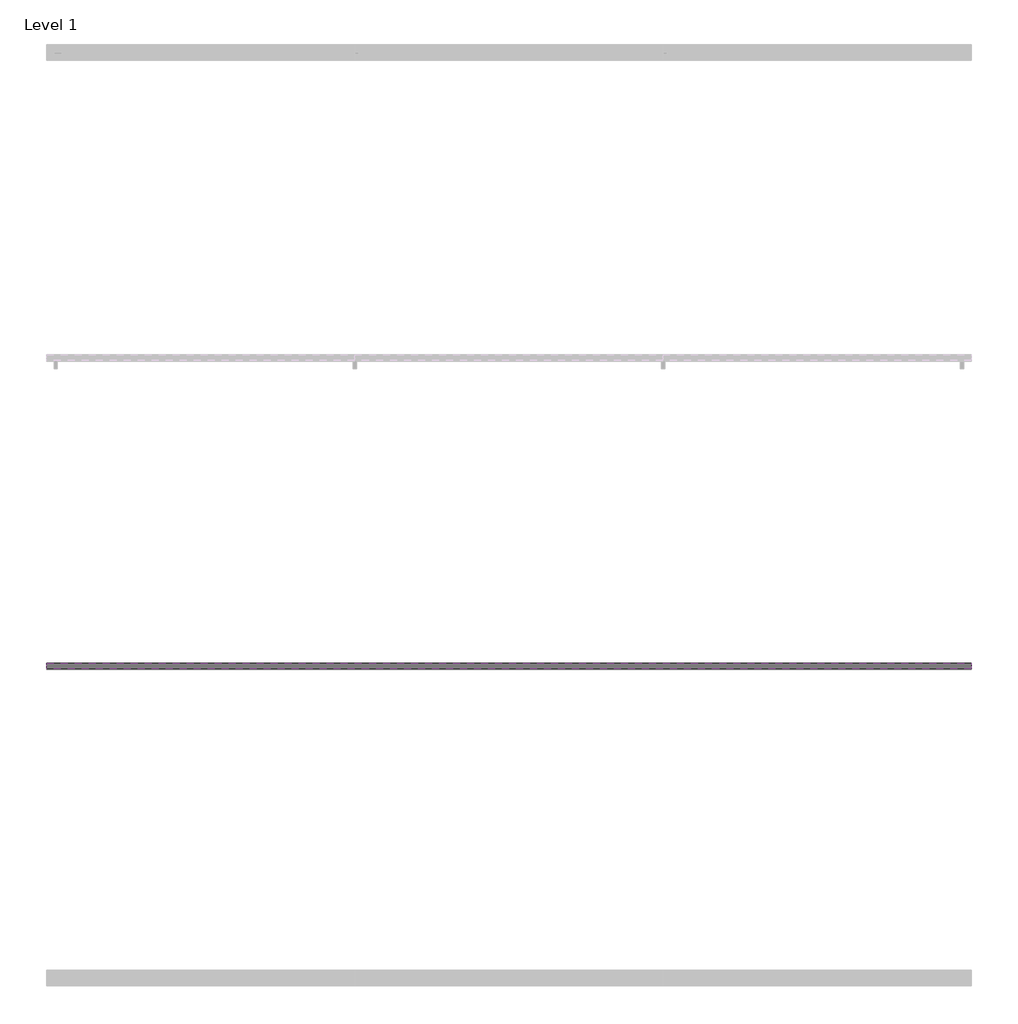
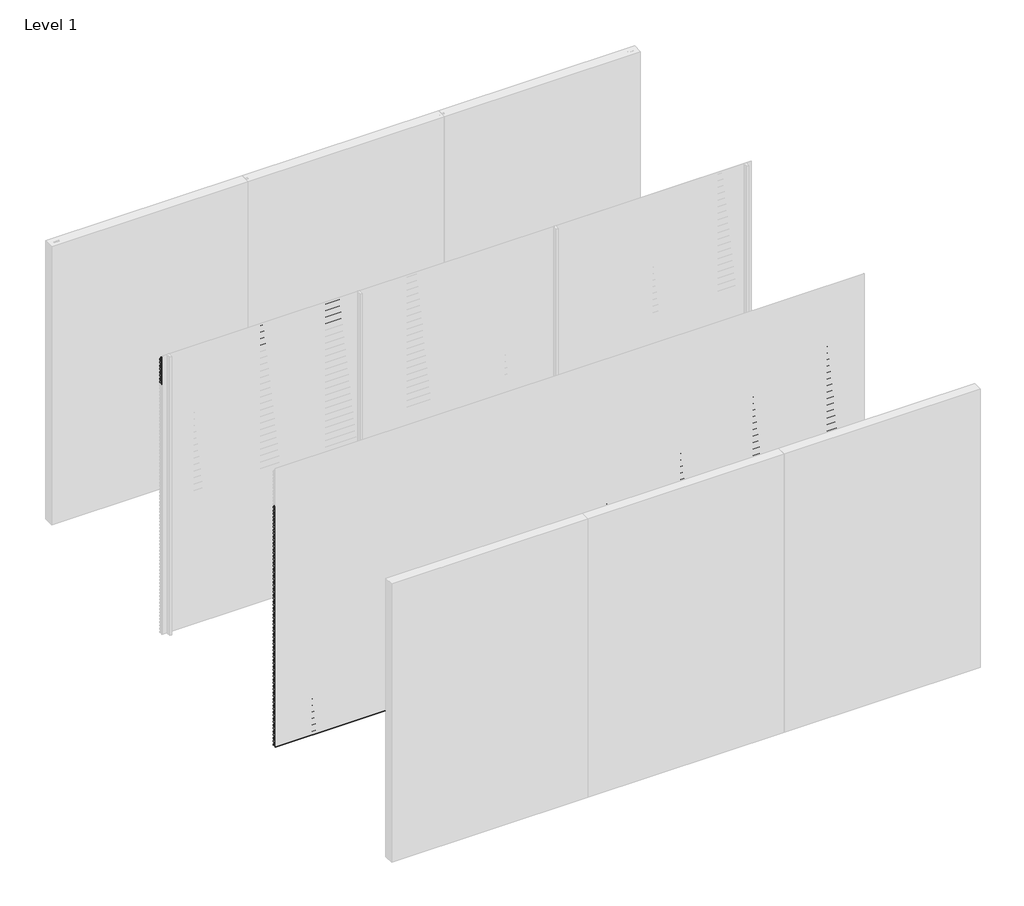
# One storey, part 10 of 17: 82 proxies.
"""IFC4 building model written with IfcOpenShell, lengths in millimetres."""

from ifc_helpers import new_model, si_unit, frame, origin, place, context, project, spatial, polyline, outline, extrude, element, save

model = new_model("IFC4")

# Units and contexts
model_context = context("Model", 3, world=origin())
ifc_project = project(units=[si_unit("LENGTHUNIT", "METRE", prefix="MILLI")], contexts=[model_context])

# Site, building, storey
site = spatial("IfcSite", under=ifc_project)
building = spatial("IfcBuilding", under=site)
storey = spatial("IfcBuildingStorey", under=building, Name="Level 1", Elevation=0.0)

# Proxies
placement = place(None, origin())
element("IfcBuildingElementProxy", 1, Name="Wall Sweeps", at=placement, inside=storey, context=model_context, shape_type="SweptSolid", body=[
    extrude(outline(polyline([(-5961.0, 2951.5), (-5961.0, 2936.5), (-5979.0, 2948.6411533), (-5997.0, 2936.5), (-5997.0, 2951.5), (-5980.0, 2962.9666448), (-5980.0, 2975.0), (-5978.0, 2975.0), (-5978.0, 2962.9666448), (-5961.0, 2951.5)])), frame((0.0, 0.0, 0.0), z_axis=(1.0, 0.0, 0.0), x_axis=(0.0, 1.0, 0.0)), (0.0, 0.0, 1.0), 2000.0),
])
element("IfcBuildingElementProxy", 2, Name="Wall Sweeps", at=placement, inside=storey, context=model_context, shape_type="SweptSolid", body=[
    extrude(outline(polyline([(-5961.0, 2916.5), (-5961.0, 2901.5), (-5979.0, 2913.6411533), (-5997.0, 2901.5), (-5997.0, 2916.5), (-5980.0, 2927.9666448), (-5980.0, 2940.0), (-5978.0, 2940.0), (-5978.0, 2927.9666448), (-5961.0, 2916.5)])), frame((0.0, 0.0, 0.0), z_axis=(1.0, 0.0, 0.0), x_axis=(0.0, 1.0, 0.0)), (0.0, 0.0, 1.0), 2000.0),
])
element("IfcBuildingElementProxy", 3, Name="Wall Sweeps", at=placement, inside=storey, context=model_context, shape_type="SweptSolid", body=[
    extrude(outline(polyline([(-5961.0, 2881.5), (-5961.0, 2866.5), (-5979.0, 2878.6411533), (-5997.0, 2866.5), (-5997.0, 2881.5), (-5980.0, 2892.9666448), (-5980.0, 2905.0), (-5978.0, 2905.0), (-5978.0, 2892.9666448), (-5961.0, 2881.5)])), frame((0.0, 0.0, 0.0), z_axis=(1.0, 0.0, 0.0), x_axis=(0.0, 1.0, 0.0)), (0.0, 0.0, 1.0), 2000.0),
])
element("IfcBuildingElementProxy", 4, Name="Wall Sweeps", at=placement, inside=storey, context=model_context, shape_type="SweptSolid", body=[
    extrude(outline(polyline([(-5961.0, 2846.5), (-5961.0, 2831.5), (-5979.0, 2843.6411533), (-5997.0, 2831.5), (-5997.0, 2846.5), (-5980.0, 2857.9666448), (-5980.0, 2870.0), (-5978.0, 2870.0), (-5978.0, 2857.9666448), (-5961.0, 2846.5)])), frame((0.0, 0.0, 0.0), z_axis=(1.0, 0.0, 0.0), x_axis=(0.0, 1.0, 0.0)), (0.0, 0.0, 1.0), 2000.0),
])
element("IfcBuildingElementProxy", 5, Name="Wall Sweeps", at=placement, inside=storey, context=model_context, shape_type="SweptSolid", body=[
    extrude(outline(polyline([(-5961.0, 2811.5), (-5961.0, 2796.5), (-5979.0, 2808.6411533), (-5997.0, 2796.5), (-5997.0, 2811.5), (-5980.0, 2822.9666448), (-5980.0, 2835.0), (-5978.0, 2835.0), (-5978.0, 2822.9666448), (-5961.0, 2811.5)])), frame((0.0, 0.0, 0.0), z_axis=(1.0, 0.0, 0.0), x_axis=(0.0, 1.0, 0.0)), (0.0, 0.0, 1.0), 2000.0),
])
element("IfcBuildingElementProxy", 6, Name="Wall Sweeps", at=placement, inside=storey, context=model_context, shape_type="SweptSolid", body=[
    extrude(outline(polyline([(-5961.0, 2776.5), (-5961.0, 2761.5), (-5979.0, 2773.6411533), (-5997.0, 2761.5), (-5997.0, 2776.5), (-5980.0, 2787.9666448), (-5980.0, 2800.0), (-5978.0, 2800.0), (-5978.0, 2787.9666448), (-5961.0, 2776.5)])), frame((0.0, 0.0, 0.0), z_axis=(1.0, 0.0, 0.0), x_axis=(0.0, 1.0, 0.0)), (0.0, 0.0, 1.0), 2000.0),
])
element("IfcBuildingElementProxy", 7, Name="Wall Sweeps", at=placement, inside=storey, context=model_context, shape_type="SweptSolid", body=[
    extrude(outline(polyline([(-5961.0, 2741.5), (-5961.0, 2726.5), (-5979.0, 2738.6411533), (-5997.0, 2726.5), (-5997.0, 2741.5), (-5980.0, 2752.9666448), (-5980.0, 2765.0), (-5978.0, 2765.0), (-5978.0, 2752.9666448), (-5961.0, 2741.5)])), frame((0.0, 0.0, 0.0), z_axis=(1.0, 0.0, 0.0), x_axis=(0.0, 1.0, 0.0)), (0.0, 0.0, 1.0), 2000.0),
])
element("IfcBuildingElementProxy", 8, Name="Wall Sweeps", at=placement, inside=storey, context=model_context, shape_type="SweptSolid", body=[
    extrude(outline(polyline([(-5961.0, 2706.5), (-5961.0, 2691.5), (-5979.0, 2703.6411533), (-5997.0, 2691.5), (-5997.0, 2706.5), (-5980.0, 2717.9666448), (-5980.0, 2730.0), (-5978.0, 2730.0), (-5978.0, 2717.9666448), (-5961.0, 2706.5)])), frame((0.0, 0.0, 0.0), z_axis=(1.0, 0.0, 0.0), x_axis=(0.0, 1.0, 0.0)), (0.0, 0.0, 1.0), 2000.0),
])
element("IfcBuildingElementProxy", 9, Name="Wall Sweeps", at=placement, inside=storey, context=model_context, shape_type="SweptSolid", body=[
    extrude(outline(polyline([(-7961.0, 2566.5), (-7961.0, 2551.5), (-7979.0, 2563.6411533), (-7997.0, 2551.5), (-7997.0, 2566.5), (-7980.0, 2577.9666448), (-7980.0, 2590.0), (-7978.0, 2590.0), (-7978.0, 2577.9666448), (-7961.0, 2566.5)])), frame((0.0, 0.0, 0.0), z_axis=(1.0, 0.0, 0.0), x_axis=(0.0, 1.0, 0.0)), (0.0, 0.0, 1.0), 6000.0),
])
element("IfcBuildingElementProxy", 10, Name="Wall Sweeps", at=placement, inside=storey, context=model_context, shape_type="SweptSolid", body=[
    extrude(outline(polyline([(-7961.0, 2531.5), (-7961.0, 2516.5), (-7979.0, 2528.6411533), (-7997.0, 2516.5), (-7997.0, 2531.5), (-7980.0, 2542.9666448), (-7980.0, 2555.0), (-7978.0, 2555.0), (-7978.0, 2542.9666448), (-7961.0, 2531.5)])), frame((0.0, 0.0, 0.0), z_axis=(1.0, 0.0, 0.0), x_axis=(0.0, 1.0, 0.0)), (0.0, 0.0, 1.0), 6000.0),
])
element("IfcBuildingElementProxy", 11, Name="Wall Sweeps", at=placement, inside=storey, context=model_context, shape_type="SweptSolid", body=[
    extrude(outline(polyline([(-7961.0, 2496.5), (-7961.0, 2481.5), (-7979.0, 2493.6411533), (-7997.0, 2481.5), (-7997.0, 2496.5), (-7980.0, 2507.9666448), (-7980.0, 2520.0), (-7978.0, 2520.0), (-7978.0, 2507.9666448), (-7961.0, 2496.5)])), frame((0.0, 0.0, 0.0), z_axis=(1.0, 0.0, 0.0), x_axis=(0.0, 1.0, 0.0)), (0.0, 0.0, 1.0), 6000.0),
])
element("IfcBuildingElementProxy", 12, Name="Wall Sweeps", at=placement, inside=storey, context=model_context, shape_type="SweptSolid", body=[
    extrude(outline(polyline([(-7961.0, 2461.5), (-7961.0, 2446.5), (-7979.0, 2458.6411533), (-7997.0, 2446.5), (-7997.0, 2461.5), (-7980.0, 2472.9666448), (-7980.0, 2485.0), (-7978.0, 2485.0), (-7978.0, 2472.9666448), (-7961.0, 2461.5)])), frame((0.0, 0.0, 0.0), z_axis=(1.0, 0.0, 0.0), x_axis=(0.0, 1.0, 0.0)), (0.0, 0.0, 1.0), 6000.0),
])
element("IfcBuildingElementProxy", 13, Name="Wall Sweeps", at=placement, inside=storey, context=model_context, shape_type="SweptSolid", body=[
    extrude(outline(polyline([(-7961.0, 2426.5), (-7961.0, 2411.5), (-7979.0, 2423.6411533), (-7997.0, 2411.5), (-7997.0, 2426.5), (-7980.0, 2437.9666448), (-7980.0, 2450.0), (-7978.0, 2450.0), (-7978.0, 2437.9666448), (-7961.0, 2426.5)])), frame((0.0, 0.0, 0.0), z_axis=(1.0, 0.0, 0.0), x_axis=(0.0, 1.0, 0.0)), (0.0, 0.0, 1.0), 6000.0),
])
element("IfcBuildingElementProxy", 14, Name="Wall Sweeps", at=placement, inside=storey, context=model_context, shape_type="SweptSolid", body=[
    extrude(outline(polyline([(-7961.0, 2391.5), (-7961.0, 2376.5), (-7979.0, 2388.6411533), (-7997.0, 2376.5), (-7997.0, 2391.5), (-7980.0, 2402.9666448), (-7980.0, 2415.0), (-7978.0, 2415.0), (-7978.0, 2402.9666448), (-7961.0, 2391.5)])), frame((0.0, 0.0, 0.0), z_axis=(1.0, 0.0, 0.0), x_axis=(0.0, 1.0, 0.0)), (0.0, 0.0, 1.0), 6000.0),
])
element("IfcBuildingElementProxy", 15, Name="Wall Sweeps", at=placement, inside=storey, context=model_context, shape_type="SweptSolid", body=[
    extrude(outline(polyline([(-7961.0, 2356.5), (-7961.0, 2341.5), (-7979.0, 2353.6411533), (-7997.0, 2341.5), (-7997.0, 2356.5), (-7980.0, 2367.9666448), (-7980.0, 2380.0), (-7978.0, 2380.0), (-7978.0, 2367.9666448), (-7961.0, 2356.5)])), frame((0.0, 0.0, 0.0), z_axis=(1.0, 0.0, 0.0), x_axis=(0.0, 1.0, 0.0)), (0.0, 0.0, 1.0), 6000.0),
])
element("IfcBuildingElementProxy", 16, Name="Wall Sweeps", at=placement, inside=storey, context=model_context, shape_type="SweptSolid", body=[
    extrude(outline(polyline([(-7961.0, 2321.5), (-7961.0, 2306.5), (-7979.0, 2318.6411533), (-7997.0, 2306.5), (-7997.0, 2321.5), (-7980.0, 2332.9666448), (-7980.0, 2345.0), (-7978.0, 2345.0), (-7978.0, 2332.9666448), (-7961.0, 2321.5)])), frame((0.0, 0.0, 0.0), z_axis=(1.0, 0.0, 0.0), x_axis=(0.0, 1.0, 0.0)), (0.0, 0.0, 1.0), 6000.0),
])
element("IfcBuildingElementProxy", 17, Name="Wall Sweeps", at=placement, inside=storey, context=model_context, shape_type="SweptSolid", body=[
    extrude(outline(polyline([(-7961.0, 2286.5), (-7961.0, 2271.5), (-7979.0, 2283.6411533), (-7997.0, 2271.5), (-7997.0, 2286.5), (-7980.0, 2297.9666448), (-7980.0, 2310.0), (-7978.0, 2310.0), (-7978.0, 2297.9666448), (-7961.0, 2286.5)])), frame((0.0, 0.0, 0.0), z_axis=(1.0, 0.0, 0.0), x_axis=(0.0, 1.0, 0.0)), (0.0, 0.0, 1.0), 6000.0),
])
element("IfcBuildingElementProxy", 18, Name="Wall Sweeps", at=placement, inside=storey, context=model_context, shape_type="SweptSolid", body=[
    extrude(outline(polyline([(-7961.0, 2251.5), (-7961.0, 2236.5), (-7979.0, 2248.6411533), (-7997.0, 2236.5), (-7997.0, 2251.5), (-7980.0, 2262.9666448), (-7980.0, 2275.0), (-7978.0, 2275.0), (-7978.0, 2262.9666448), (-7961.0, 2251.5)])), frame((0.0, 0.0, 0.0), z_axis=(1.0, 0.0, 0.0), x_axis=(0.0, 1.0, 0.0)), (0.0, 0.0, 1.0), 6000.0),
])
element("IfcBuildingElementProxy", 19, Name="Wall Sweeps", at=placement, inside=storey, context=model_context, shape_type="SweptSolid", body=[
    extrude(outline(polyline([(-7961.0, 2216.5), (-7961.0, 2201.5), (-7979.0, 2213.6411533), (-7997.0, 2201.5), (-7997.0, 2216.5), (-7980.0, 2227.9666448), (-7980.0, 2240.0), (-7978.0, 2240.0), (-7978.0, 2227.9666448), (-7961.0, 2216.5)])), frame((0.0, 0.0, 0.0), z_axis=(1.0, 0.0, 0.0), x_axis=(0.0, 1.0, 0.0)), (0.0, 0.0, 1.0), 6000.0),
])
element("IfcBuildingElementProxy", 20, Name="Wall Sweeps", at=placement, inside=storey, context=model_context, shape_type="SweptSolid", body=[
    extrude(outline(polyline([(-7961.0, 2181.5), (-7961.0, 2166.5), (-7979.0, 2178.6411533), (-7997.0, 2166.5), (-7997.0, 2181.5), (-7980.0, 2192.9666448), (-7980.0, 2205.0), (-7978.0, 2205.0), (-7978.0, 2192.9666448), (-7961.0, 2181.5)])), frame((0.0, 0.0, 0.0), z_axis=(1.0, 0.0, 0.0), x_axis=(0.0, 1.0, 0.0)), (0.0, 0.0, 1.0), 6000.0),
])
element("IfcBuildingElementProxy", 21, Name="Wall Sweeps", at=placement, inside=storey, context=model_context, shape_type="SweptSolid", body=[
    extrude(outline(polyline([(-7961.0, 2146.5), (-7961.0, 2131.5), (-7979.0, 2143.6411533), (-7997.0, 2131.5), (-7997.0, 2146.5), (-7980.0, 2157.9666448), (-7980.0, 2170.0), (-7978.0, 2170.0), (-7978.0, 2157.9666448), (-7961.0, 2146.5)])), frame((0.0, 0.0, 0.0), z_axis=(1.0, 0.0, 0.0), x_axis=(0.0, 1.0, 0.0)), (0.0, 0.0, 1.0), 6000.0),
])
element("IfcBuildingElementProxy", 22, Name="Wall Sweeps", at=placement, inside=storey, context=model_context, shape_type="SweptSolid", body=[
    extrude(outline(polyline([(-7961.0, 2111.5), (-7961.0, 2096.5), (-7979.0, 2108.6411533), (-7997.0, 2096.5), (-7997.0, 2111.5), (-7980.0, 2122.9666448), (-7980.0, 2135.0), (-7978.0, 2135.0), (-7978.0, 2122.9666448), (-7961.0, 2111.5)])), frame((0.0, 0.0, 0.0), z_axis=(1.0, 0.0, 0.0), x_axis=(0.0, 1.0, 0.0)), (0.0, 0.0, 1.0), 6000.0),
])
element("IfcBuildingElementProxy", 23, Name="Wall Sweeps", at=placement, inside=storey, context=model_context, shape_type="SweptSolid", body=[
    extrude(outline(polyline([(-7961.0, 2076.5), (-7961.0, 2061.5), (-7979.0, 2073.6411533), (-7997.0, 2061.5), (-7997.0, 2076.5), (-7980.0, 2087.9666448), (-7980.0, 2100.0), (-7978.0, 2100.0), (-7978.0, 2087.9666448), (-7961.0, 2076.5)])), frame((0.0, 0.0, 0.0), z_axis=(1.0, 0.0, 0.0), x_axis=(0.0, 1.0, 0.0)), (0.0, 0.0, 1.0), 6000.0),
])
element("IfcBuildingElementProxy", 24, Name="Wall Sweeps", at=placement, inside=storey, context=model_context, shape_type="SweptSolid", body=[
    extrude(outline(polyline([(-7961.0, 2041.5), (-7961.0, 2026.5), (-7979.0, 2038.6411533), (-7997.0, 2026.5), (-7997.0, 2041.5), (-7980.0, 2052.9666448), (-7980.0, 2065.0), (-7978.0, 2065.0), (-7978.0, 2052.9666448), (-7961.0, 2041.5)])), frame((0.0, 0.0, 0.0), z_axis=(1.0, 0.0, 0.0), x_axis=(0.0, 1.0, 0.0)), (0.0, 0.0, 1.0), 6000.0),
])
element("IfcBuildingElementProxy", 25, Name="Wall Sweeps", at=placement, inside=storey, context=model_context, shape_type="SweptSolid", body=[
    extrude(outline(polyline([(-7961.0, 2006.5), (-7961.0, 1991.5), (-7979.0, 2003.6411533), (-7997.0, 1991.5), (-7997.0, 2006.5), (-7980.0, 2017.9666448), (-7980.0, 2030.0), (-7978.0, 2030.0), (-7978.0, 2017.9666448), (-7961.0, 2006.5)])), frame((0.0, 0.0, 0.0), z_axis=(1.0, 0.0, 0.0), x_axis=(0.0, 1.0, 0.0)), (0.0, 0.0, 1.0), 6000.0),
])
element("IfcBuildingElementProxy", 26, Name="Wall Sweeps", at=placement, inside=storey, context=model_context, shape_type="SweptSolid", body=[
    extrude(outline(polyline([(-7961.0, 1971.5), (-7961.0, 1956.5), (-7979.0, 1968.6411533), (-7997.0, 1956.5), (-7997.0, 1971.5), (-7980.0, 1982.9666448), (-7980.0, 1995.0), (-7978.0, 1995.0), (-7978.0, 1982.9666448), (-7961.0, 1971.5)])), frame((0.0, 0.0, 0.0), z_axis=(1.0, 0.0, 0.0), x_axis=(0.0, 1.0, 0.0)), (0.0, 0.0, 1.0), 6000.0),
])
element("IfcBuildingElementProxy", 27, Name="Wall Sweeps", at=placement, inside=storey, context=model_context, shape_type="SweptSolid", body=[
    extrude(outline(polyline([(-7961.0, 1936.5), (-7961.0, 1921.5), (-7979.0, 1933.6411533), (-7997.0, 1921.5), (-7997.0, 1936.5), (-7980.0, 1947.9666448), (-7980.0, 1960.0), (-7978.0, 1960.0), (-7978.0, 1947.9666448), (-7961.0, 1936.5)])), frame((0.0, 0.0, 0.0), z_axis=(1.0, 0.0, 0.0), x_axis=(0.0, 1.0, 0.0)), (0.0, 0.0, 1.0), 6000.0),
])
element("IfcBuildingElementProxy", 28, Name="Wall Sweeps", at=placement, inside=storey, context=model_context, shape_type="SweptSolid", body=[
    extrude(outline(polyline([(-7961.0, 1901.5), (-7961.0, 1886.5), (-7979.0, 1898.6411533), (-7997.0, 1886.5), (-7997.0, 1901.5), (-7980.0, 1912.9666448), (-7980.0, 1925.0), (-7978.0, 1925.0), (-7978.0, 1912.9666448), (-7961.0, 1901.5)])), frame((0.0, 0.0, 0.0), z_axis=(1.0, 0.0, 0.0), x_axis=(0.0, 1.0, 0.0)), (0.0, 0.0, 1.0), 6000.0),
])
element("IfcBuildingElementProxy", 29, Name="Wall Sweeps", at=placement, inside=storey, context=model_context, shape_type="SweptSolid", body=[
    extrude(outline(polyline([(-7961.0, 1866.5), (-7961.0, 1851.5), (-7979.0, 1863.6411533), (-7997.0, 1851.5), (-7997.0, 1866.5), (-7980.0, 1877.9666448), (-7980.0, 1890.0), (-7978.0, 1890.0), (-7978.0, 1877.9666448), (-7961.0, 1866.5)])), frame((0.0, 0.0, 0.0), z_axis=(1.0, 0.0, 0.0), x_axis=(0.0, 1.0, 0.0)), (0.0, 0.0, 1.0), 6000.0),
])
element("IfcBuildingElementProxy", 30, Name="Wall Sweeps", at=placement, inside=storey, context=model_context, shape_type="SweptSolid", body=[
    extrude(outline(polyline([(-7961.0, 1831.5), (-7961.0, 1816.5), (-7979.0, 1828.6411533), (-7997.0, 1816.5), (-7997.0, 1831.5), (-7980.0, 1842.9666448), (-7980.0, 1855.0), (-7978.0, 1855.0), (-7978.0, 1842.9666448), (-7961.0, 1831.5)])), frame((0.0, 0.0, 0.0), z_axis=(1.0, 0.0, 0.0), x_axis=(0.0, 1.0, 0.0)), (0.0, 0.0, 1.0), 6000.0),
])
element("IfcBuildingElementProxy", 31, Name="Wall Sweeps", at=placement, inside=storey, context=model_context, shape_type="SweptSolid", body=[
    extrude(outline(polyline([(-7961.0, 1796.5), (-7961.0, 1781.5), (-7979.0, 1793.6411533), (-7997.0, 1781.5), (-7997.0, 1796.5), (-7980.0, 1807.9666448), (-7980.0, 1820.0), (-7978.0, 1820.0), (-7978.0, 1807.9666448), (-7961.0, 1796.5)])), frame((0.0, 0.0, 0.0), z_axis=(1.0, 0.0, 0.0), x_axis=(0.0, 1.0, 0.0)), (0.0, 0.0, 1.0), 6000.0),
])
element("IfcBuildingElementProxy", 32, Name="Wall Sweeps", at=placement, inside=storey, context=model_context, shape_type="SweptSolid", body=[
    extrude(outline(polyline([(-7961.0, 1761.5), (-7961.0, 1746.5), (-7979.0, 1758.6411533), (-7997.0, 1746.5), (-7997.0, 1761.5), (-7980.0, 1772.9666448), (-7980.0, 1785.0), (-7978.0, 1785.0), (-7978.0, 1772.9666448), (-7961.0, 1761.5)])), frame((0.0, 0.0, 0.0), z_axis=(1.0, 0.0, 0.0), x_axis=(0.0, 1.0, 0.0)), (0.0, 0.0, 1.0), 6000.0),
])
element("IfcBuildingElementProxy", 33, Name="Wall Sweeps", at=placement, inside=storey, context=model_context, shape_type="SweptSolid", body=[
    extrude(outline(polyline([(-7961.0, 1726.5), (-7961.0, 1711.5), (-7979.0, 1723.6411533), (-7997.0, 1711.5), (-7997.0, 1726.5), (-7980.0, 1737.9666448), (-7980.0, 1750.0), (-7978.0, 1750.0), (-7978.0, 1737.9666448), (-7961.0, 1726.5)])), frame((0.0, 0.0, 0.0), z_axis=(1.0, 0.0, 0.0), x_axis=(0.0, 1.0, 0.0)), (0.0, 0.0, 1.0), 6000.0),
])
element("IfcBuildingElementProxy", 34, Name="Wall Sweeps", at=placement, inside=storey, context=model_context, shape_type="SweptSolid", body=[
    extrude(outline(polyline([(-7961.0, 1691.5), (-7961.0, 1676.5), (-7979.0, 1688.6411533), (-7997.0, 1676.5), (-7997.0, 1691.5), (-7980.0, 1702.9666448), (-7980.0, 1715.0), (-7978.0, 1715.0), (-7978.0, 1702.9666448), (-7961.0, 1691.5)])), frame((0.0, 0.0, 0.0), z_axis=(1.0, 0.0, 0.0), x_axis=(0.0, 1.0, 0.0)), (0.0, 0.0, 1.0), 6000.0),
])
element("IfcBuildingElementProxy", 35, Name="Wall Sweeps", at=placement, inside=storey, context=model_context, shape_type="SweptSolid", body=[
    extrude(outline(polyline([(-7961.0, 1656.5), (-7961.0, 1641.5), (-7979.0, 1653.6411533), (-7997.0, 1641.5), (-7997.0, 1656.5), (-7980.0, 1667.9666448), (-7980.0, 1680.0), (-7978.0, 1680.0), (-7978.0, 1667.9666448), (-7961.0, 1656.5)])), frame((0.0, 0.0, 0.0), z_axis=(1.0, 0.0, 0.0), x_axis=(0.0, 1.0, 0.0)), (0.0, 0.0, 1.0), 6000.0),
])
element("IfcBuildingElementProxy", 36, Name="Wall Sweeps", at=placement, inside=storey, context=model_context, shape_type="SweptSolid", body=[
    extrude(outline(polyline([(-7961.0, 1621.5), (-7961.0, 1606.5), (-7979.0, 1618.6411533), (-7997.0, 1606.5), (-7997.0, 1621.5), (-7980.0, 1632.9666448), (-7980.0, 1645.0), (-7978.0, 1645.0), (-7978.0, 1632.9666448), (-7961.0, 1621.5)])), frame((0.0, 0.0, 0.0), z_axis=(1.0, 0.0, 0.0), x_axis=(0.0, 1.0, 0.0)), (0.0, 0.0, 1.0), 6000.0),
])
element("IfcBuildingElementProxy", 37, Name="Wall Sweeps", at=placement, inside=storey, context=model_context, shape_type="SweptSolid", body=[
    extrude(outline(polyline([(-7961.0, 1586.5), (-7961.0, 1571.5), (-7979.0, 1583.6411533), (-7997.0, 1571.5), (-7997.0, 1586.5), (-7980.0, 1597.9666448), (-7980.0, 1610.0), (-7978.0, 1610.0), (-7978.0, 1597.9666448), (-7961.0, 1586.5)])), frame((0.0, 0.0, 0.0), z_axis=(1.0, 0.0, 0.0), x_axis=(0.0, 1.0, 0.0)), (0.0, 0.0, 1.0), 6000.0),
])
element("IfcBuildingElementProxy", 38, Name="Wall Sweeps", at=placement, inside=storey, context=model_context, shape_type="SweptSolid", body=[
    extrude(outline(polyline([(-7961.0, 1551.5), (-7961.0, 1536.5), (-7979.0, 1548.6411533), (-7997.0, 1536.5), (-7997.0, 1551.5), (-7980.0, 1562.9666448), (-7980.0, 1575.0), (-7978.0, 1575.0), (-7978.0, 1562.9666448), (-7961.0, 1551.5)])), frame((0.0, 0.0, 0.0), z_axis=(1.0, 0.0, 0.0), x_axis=(0.0, 1.0, 0.0)), (0.0, 0.0, 1.0), 6000.0),
])
element("IfcBuildingElementProxy", 39, Name="Wall Sweeps", at=placement, inside=storey, context=model_context, shape_type="SweptSolid", body=[
    extrude(outline(polyline([(-7961.0, 1516.5), (-7961.0, 1501.5), (-7979.0, 1513.6411533), (-7997.0, 1501.5), (-7997.0, 1516.5), (-7980.0, 1527.9666448), (-7980.0, 1540.0), (-7978.0, 1540.0), (-7978.0, 1527.9666448), (-7961.0, 1516.5)])), frame((0.0, 0.0, 0.0), z_axis=(1.0, 0.0, 0.0), x_axis=(0.0, 1.0, 0.0)), (0.0, 0.0, 1.0), 6000.0),
])
element("IfcBuildingElementProxy", 40, Name="Wall Sweeps", at=placement, inside=storey, context=model_context, shape_type="SweptSolid", body=[
    extrude(outline(polyline([(-7961.0, 1481.5), (-7961.0, 1466.5), (-7979.0, 1478.6411533), (-7997.0, 1466.5), (-7997.0, 1481.5), (-7980.0, 1492.9666448), (-7980.0, 1505.0), (-7978.0, 1505.0), (-7978.0, 1492.9666448), (-7961.0, 1481.5)])), frame((0.0, 0.0, 0.0), z_axis=(1.0, 0.0, 0.0), x_axis=(0.0, 1.0, 0.0)), (0.0, 0.0, 1.0), 6000.0),
])
element("IfcBuildingElementProxy", 41, Name="Wall Sweeps", at=placement, inside=storey, context=model_context, shape_type="SweptSolid", body=[
    extrude(outline(polyline([(-7961.0, 1446.5), (-7961.0, 1431.5), (-7979.0, 1443.6411533), (-7997.0, 1431.5), (-7997.0, 1446.5), (-7980.0, 1457.9666448), (-7980.0, 1470.0), (-7978.0, 1470.0), (-7978.0, 1457.9666448), (-7961.0, 1446.5)])), frame((0.0, 0.0, 0.0), z_axis=(1.0, 0.0, 0.0), x_axis=(0.0, 1.0, 0.0)), (0.0, 0.0, 1.0), 6000.0),
])
element("IfcBuildingElementProxy", 42, Name="Wall Sweeps", at=placement, inside=storey, context=model_context, shape_type="SweptSolid", body=[
    extrude(outline(polyline([(-7961.0, 1411.5), (-7961.0, 1396.5), (-7979.0, 1408.6411533), (-7997.0, 1396.5), (-7997.0, 1411.5), (-7980.0, 1422.9666448), (-7980.0, 1435.0), (-7978.0, 1435.0), (-7978.0, 1422.9666448), (-7961.0, 1411.5)])), frame((0.0, 0.0, 0.0), z_axis=(1.0, 0.0, 0.0), x_axis=(0.0, 1.0, 0.0)), (0.0, 0.0, 1.0), 6000.0),
])
element("IfcBuildingElementProxy", 43, Name="Wall Sweeps", at=placement, inside=storey, context=model_context, shape_type="SweptSolid", body=[
    extrude(outline(polyline([(-7961.0, 1376.5), (-7961.0, 1361.5), (-7979.0, 1373.6411533), (-7997.0, 1361.5), (-7997.0, 1376.5), (-7980.0, 1387.9666448), (-7980.0, 1400.0), (-7978.0, 1400.0), (-7978.0, 1387.9666448), (-7961.0, 1376.5)])), frame((0.0, 0.0, 0.0), z_axis=(1.0, 0.0, 0.0), x_axis=(0.0, 1.0, 0.0)), (0.0, 0.0, 1.0), 6000.0),
])
element("IfcBuildingElementProxy", 44, Name="Wall Sweeps", at=placement, inside=storey, context=model_context, shape_type="SweptSolid", body=[
    extrude(outline(polyline([(-7961.0, 1341.5), (-7961.0, 1326.5), (-7979.0, 1338.6411533), (-7997.0, 1326.5), (-7997.0, 1341.5), (-7980.0, 1352.9666448), (-7980.0, 1365.0), (-7978.0, 1365.0), (-7978.0, 1352.9666448), (-7961.0, 1341.5)])), frame((0.0, 0.0, 0.0), z_axis=(1.0, 0.0, 0.0), x_axis=(0.0, 1.0, 0.0)), (0.0, 0.0, 1.0), 6000.0),
])
element("IfcBuildingElementProxy", 45, Name="Wall Sweeps", at=placement, inside=storey, context=model_context, shape_type="SweptSolid", body=[
    extrude(outline(polyline([(-7961.0, 1306.5), (-7961.0, 1291.5), (-7979.0, 1303.6411533), (-7997.0, 1291.5), (-7997.0, 1306.5), (-7980.0, 1317.9666448), (-7980.0, 1330.0), (-7978.0, 1330.0), (-7978.0, 1317.9666448), (-7961.0, 1306.5)])), frame((0.0, 0.0, 0.0), z_axis=(1.0, 0.0, 0.0), x_axis=(0.0, 1.0, 0.0)), (0.0, 0.0, 1.0), 6000.0),
])
element("IfcBuildingElementProxy", 46, Name="Wall Sweeps", at=placement, inside=storey, context=model_context, shape_type="SweptSolid", body=[
    extrude(outline(polyline([(-7961.0, 1271.5), (-7961.0, 1256.5), (-7979.0, 1268.6411533), (-7997.0, 1256.5), (-7997.0, 1271.5), (-7980.0, 1282.9666448), (-7980.0, 1295.0), (-7978.0, 1295.0), (-7978.0, 1282.9666448), (-7961.0, 1271.5)])), frame((0.0, 0.0, 0.0), z_axis=(1.0, 0.0, 0.0), x_axis=(0.0, 1.0, 0.0)), (0.0, 0.0, 1.0), 6000.0),
])
element("IfcBuildingElementProxy", 47, Name="Wall Sweeps", at=placement, inside=storey, context=model_context, shape_type="SweptSolid", body=[
    extrude(outline(polyline([(-7961.0, 1236.5), (-7961.0, 1221.5), (-7979.0, 1233.6411533), (-7997.0, 1221.5), (-7997.0, 1236.5), (-7980.0, 1247.9666448), (-7980.0, 1260.0), (-7978.0, 1260.0), (-7978.0, 1247.9666448), (-7961.0, 1236.5)])), frame((0.0, 0.0, 0.0), z_axis=(1.0, 0.0, 0.0), x_axis=(0.0, 1.0, 0.0)), (0.0, 0.0, 1.0), 6000.0),
])
element("IfcBuildingElementProxy", 48, Name="Wall Sweeps", at=placement, inside=storey, context=model_context, shape_type="SweptSolid", body=[
    extrude(outline(polyline([(-7961.0, 1201.5), (-7961.0, 1186.5), (-7979.0, 1198.6411533), (-7997.0, 1186.5), (-7997.0, 1201.5), (-7980.0, 1212.9666448), (-7980.0, 1225.0), (-7978.0, 1225.0), (-7978.0, 1212.9666448), (-7961.0, 1201.5)])), frame((0.0, 0.0, 0.0), z_axis=(1.0, 0.0, 0.0), x_axis=(0.0, 1.0, 0.0)), (0.0, 0.0, 1.0), 6000.0),
])
element("IfcBuildingElementProxy", 49, Name="Wall Sweeps", at=placement, inside=storey, context=model_context, shape_type="SweptSolid", body=[
    extrude(outline(polyline([(-7961.0, 1166.5), (-7961.0, 1151.5), (-7979.0, 1163.6411533), (-7997.0, 1151.5), (-7997.0, 1166.5), (-7980.0, 1177.9666448), (-7980.0, 1190.0), (-7978.0, 1190.0), (-7978.0, 1177.9666448), (-7961.0, 1166.5)])), frame((0.0, 0.0, 0.0), z_axis=(1.0, 0.0, 0.0), x_axis=(0.0, 1.0, 0.0)), (0.0, 0.0, 1.0), 6000.0),
])
element("IfcBuildingElementProxy", 50, Name="Wall Sweeps", at=placement, inside=storey, context=model_context, shape_type="SweptSolid", body=[
    extrude(outline(polyline([(-7961.0, 1131.5), (-7961.0, 1116.5), (-7979.0, 1128.6411533), (-7997.0, 1116.5), (-7997.0, 1131.5), (-7980.0, 1142.9666448), (-7980.0, 1155.0), (-7978.0, 1155.0), (-7978.0, 1142.9666448), (-7961.0, 1131.5)])), frame((0.0, 0.0, 0.0), z_axis=(1.0, 0.0, 0.0), x_axis=(0.0, 1.0, 0.0)), (0.0, 0.0, 1.0), 6000.0),
])
element("IfcBuildingElementProxy", 51, Name="Wall Sweeps", at=placement, inside=storey, context=model_context, shape_type="SweptSolid", body=[
    extrude(outline(polyline([(-7961.0, 1096.5), (-7961.0, 1081.5), (-7979.0, 1093.6411533), (-7997.0, 1081.5), (-7997.0, 1096.5), (-7980.0, 1107.9666448), (-7980.0, 1120.0), (-7978.0, 1120.0), (-7978.0, 1107.9666448), (-7961.0, 1096.5)])), frame((0.0, 0.0, 0.0), z_axis=(1.0, 0.0, 0.0), x_axis=(0.0, 1.0, 0.0)), (0.0, 0.0, 1.0), 6000.0),
])
element("IfcBuildingElementProxy", 52, Name="Wall Sweeps", at=placement, inside=storey, context=model_context, shape_type="SweptSolid", body=[
    extrude(outline(polyline([(-7961.0, 1061.5), (-7961.0, 1046.5), (-7979.0, 1058.6411533), (-7997.0, 1046.5), (-7997.0, 1061.5), (-7980.0, 1072.9666448), (-7980.0, 1085.0), (-7978.0, 1085.0), (-7978.0, 1072.9666448), (-7961.0, 1061.5)])), frame((0.0, 0.0, 0.0), z_axis=(1.0, 0.0, 0.0), x_axis=(0.0, 1.0, 0.0)), (0.0, 0.0, 1.0), 6000.0),
])
element("IfcBuildingElementProxy", 53, Name="Wall Sweeps", at=placement, inside=storey, context=model_context, shape_type="SweptSolid", body=[
    extrude(outline(polyline([(-7961.0, 1026.5), (-7961.0, 1011.5), (-7979.0, 1023.6411533), (-7997.0, 1011.5), (-7997.0, 1026.5), (-7980.0, 1037.9666448), (-7980.0, 1050.0), (-7978.0, 1050.0), (-7978.0, 1037.9666448), (-7961.0, 1026.5)])), frame((0.0, 0.0, 0.0), z_axis=(1.0, 0.0, 0.0), x_axis=(0.0, 1.0, 0.0)), (0.0, 0.0, 1.0), 6000.0),
])
element("IfcBuildingElementProxy", 54, Name="Wall Sweeps", at=placement, inside=storey, context=model_context, shape_type="SweptSolid", body=[
    extrude(outline(polyline([(-7961.0, 991.5), (-7961.0, 976.5), (-7979.0, 988.6411533), (-7997.0, 976.5), (-7997.0, 991.5), (-7980.0, 1002.9666448), (-7980.0, 1015.0), (-7978.0, 1015.0), (-7978.0, 1002.9666448), (-7961.0, 991.5)])), frame((0.0, 0.0, 0.0), z_axis=(1.0, 0.0, 0.0), x_axis=(0.0, 1.0, 0.0)), (0.0, 0.0, 1.0), 6000.0),
])
element("IfcBuildingElementProxy", 55, Name="Wall Sweeps", at=placement, inside=storey, context=model_context, shape_type="SweptSolid", body=[
    extrude(outline(polyline([(-7961.0, 956.5), (-7961.0, 941.5), (-7979.0, 953.6411533), (-7997.0, 941.5), (-7997.0, 956.5), (-7980.0, 967.9666448), (-7980.0, 980.0), (-7978.0, 980.0), (-7978.0, 967.9666448), (-7961.0, 956.5)])), frame((0.0, 0.0, 0.0), z_axis=(1.0, 0.0, 0.0), x_axis=(0.0, 1.0, 0.0)), (0.0, 0.0, 1.0), 6000.0),
])
element("IfcBuildingElementProxy", 56, Name="Wall Sweeps", at=placement, inside=storey, context=model_context, shape_type="SweptSolid", body=[
    extrude(outline(polyline([(-7961.0, 921.5), (-7961.0, 906.5), (-7979.0, 918.6411533), (-7997.0, 906.5), (-7997.0, 921.5), (-7980.0, 932.9666448), (-7980.0, 945.0), (-7978.0, 945.0), (-7978.0, 932.9666448), (-7961.0, 921.5)])), frame((0.0, 0.0, 0.0), z_axis=(1.0, 0.0, 0.0), x_axis=(0.0, 1.0, 0.0)), (0.0, 0.0, 1.0), 6000.0),
])
element("IfcBuildingElementProxy", 57, Name="Wall Sweeps", at=placement, inside=storey, context=model_context, shape_type="SweptSolid", body=[
    extrude(outline(polyline([(-7961.0, 886.5), (-7961.0, 871.5), (-7979.0, 883.6411533), (-7997.0, 871.5), (-7997.0, 886.5), (-7980.0, 897.9666448), (-7980.0, 910.0), (-7978.0, 910.0), (-7978.0, 897.9666448), (-7961.0, 886.5)])), frame((0.0, 0.0, 0.0), z_axis=(1.0, 0.0, 0.0), x_axis=(0.0, 1.0, 0.0)), (0.0, 0.0, 1.0), 6000.0),
])
element("IfcBuildingElementProxy", 58, Name="Wall Sweeps", at=placement, inside=storey, context=model_context, shape_type="SweptSolid", body=[
    extrude(outline(polyline([(-7961.0, 851.5), (-7961.0, 836.5), (-7979.0, 848.6411533), (-7997.0, 836.5), (-7997.0, 851.5), (-7980.0, 862.9666448), (-7980.0, 875.0), (-7978.0, 875.0), (-7978.0, 862.9666448), (-7961.0, 851.5)])), frame((0.0, 0.0, 0.0), z_axis=(1.0, 0.0, 0.0), x_axis=(0.0, 1.0, 0.0)), (0.0, 0.0, 1.0), 6000.0),
])
element("IfcBuildingElementProxy", 59, Name="Wall Sweeps", at=placement, inside=storey, context=model_context, shape_type="SweptSolid", body=[
    extrude(outline(polyline([(-7961.0, 816.5), (-7961.0, 801.5), (-7979.0, 813.6411533), (-7997.0, 801.5), (-7997.0, 816.5), (-7980.0, 827.9666448), (-7980.0, 840.0), (-7978.0, 840.0), (-7978.0, 827.9666448), (-7961.0, 816.5)])), frame((0.0, 0.0, 0.0), z_axis=(1.0, 0.0, 0.0), x_axis=(0.0, 1.0, 0.0)), (0.0, 0.0, 1.0), 6000.0),
])
element("IfcBuildingElementProxy", 60, Name="Wall Sweeps", at=placement, inside=storey, context=model_context, shape_type="SweptSolid", body=[
    extrude(outline(polyline([(-7961.0, 781.5), (-7961.0, 766.5), (-7979.0, 778.6411533), (-7997.0, 766.5), (-7997.0, 781.5), (-7980.0, 792.9666448), (-7980.0, 805.0), (-7978.0, 805.0), (-7978.0, 792.9666448), (-7961.0, 781.5)])), frame((0.0, 0.0, 0.0), z_axis=(1.0, 0.0, 0.0), x_axis=(0.0, 1.0, 0.0)), (0.0, 0.0, 1.0), 6000.0),
])
element("IfcBuildingElementProxy", 61, Name="Wall Sweeps", at=placement, inside=storey, context=model_context, shape_type="SweptSolid", body=[
    extrude(outline(polyline([(-7961.0, 746.5), (-7961.0, 731.5), (-7979.0, 743.6411533), (-7997.0, 731.5), (-7997.0, 746.5), (-7980.0, 757.9666448), (-7980.0, 770.0), (-7978.0, 770.0), (-7978.0, 757.9666448), (-7961.0, 746.5)])), frame((0.0, 0.0, 0.0), z_axis=(1.0, 0.0, 0.0), x_axis=(0.0, 1.0, 0.0)), (0.0, 0.0, 1.0), 6000.0),
])
element("IfcBuildingElementProxy", 62, Name="Wall Sweeps", at=placement, inside=storey, context=model_context, shape_type="SweptSolid", body=[
    extrude(outline(polyline([(-7961.0, 711.5), (-7961.0, 696.5), (-7979.0, 708.6411533), (-7997.0, 696.5), (-7997.0, 711.5), (-7980.0, 722.9666448), (-7980.0, 735.0), (-7978.0, 735.0), (-7978.0, 722.9666448), (-7961.0, 711.5)])), frame((0.0, 0.0, 0.0), z_axis=(1.0, 0.0, 0.0), x_axis=(0.0, 1.0, 0.0)), (0.0, 0.0, 1.0), 6000.0),
])
element("IfcBuildingElementProxy", 63, Name="Wall Sweeps", at=placement, inside=storey, context=model_context, shape_type="SweptSolid", body=[
    extrude(outline(polyline([(-7961.0, 676.5), (-7961.0, 661.5), (-7979.0, 673.6411533), (-7997.0, 661.5), (-7997.0, 676.5), (-7980.0, 687.9666448), (-7980.0, 700.0), (-7978.0, 700.0), (-7978.0, 687.9666448), (-7961.0, 676.5)])), frame((0.0, 0.0, 0.0), z_axis=(1.0, 0.0, 0.0), x_axis=(0.0, 1.0, 0.0)), (0.0, 0.0, 1.0), 6000.0),
])
element("IfcBuildingElementProxy", 64, Name="Wall Sweeps", at=placement, inside=storey, context=model_context, shape_type="SweptSolid", body=[
    extrude(outline(polyline([(-7961.0, 641.5), (-7961.0, 626.5), (-7979.0, 638.6411533), (-7997.0, 626.5), (-7997.0, 641.5), (-7980.0, 652.9666448), (-7980.0, 665.0), (-7978.0, 665.0), (-7978.0, 652.9666448), (-7961.0, 641.5)])), frame((0.0, 0.0, 0.0), z_axis=(1.0, 0.0, 0.0), x_axis=(0.0, 1.0, 0.0)), (0.0, 0.0, 1.0), 6000.0),
])
element("IfcBuildingElementProxy", 65, Name="Wall Sweeps", at=placement, inside=storey, context=model_context, shape_type="SweptSolid", body=[
    extrude(outline(polyline([(-7961.0, 606.5), (-7961.0, 591.5), (-7979.0, 603.6411533), (-7997.0, 591.5), (-7997.0, 606.5), (-7980.0, 617.9666448), (-7980.0, 630.0), (-7978.0, 630.0), (-7978.0, 617.9666448), (-7961.0, 606.5)])), frame((0.0, 0.0, 0.0), z_axis=(1.0, 0.0, 0.0), x_axis=(0.0, 1.0, 0.0)), (0.0, 0.0, 1.0), 6000.0),
])
element("IfcBuildingElementProxy", 66, Name="Wall Sweeps", at=placement, inside=storey, context=model_context, shape_type="SweptSolid", body=[
    extrude(outline(polyline([(-7961.0, 571.5), (-7961.0, 556.5), (-7979.0, 568.6411533), (-7997.0, 556.5), (-7997.0, 571.5), (-7980.0, 582.9666448), (-7980.0, 595.0), (-7978.0, 595.0), (-7978.0, 582.9666448), (-7961.0, 571.5)])), frame((0.0, 0.0, 0.0), z_axis=(1.0, 0.0, 0.0), x_axis=(0.0, 1.0, 0.0)), (0.0, 0.0, 1.0), 6000.0),
])
element("IfcBuildingElementProxy", 67, Name="Wall Sweeps", at=placement, inside=storey, context=model_context, shape_type="SweptSolid", body=[
    extrude(outline(polyline([(-7961.0, 536.5), (-7961.0, 521.5), (-7979.0, 533.6411533), (-7997.0, 521.5), (-7997.0, 536.5), (-7980.0, 547.9666448), (-7980.0, 560.0), (-7978.0, 560.0), (-7978.0, 547.9666448), (-7961.0, 536.5)])), frame((0.0, 0.0, 0.0), z_axis=(1.0, 0.0, 0.0), x_axis=(0.0, 1.0, 0.0)), (0.0, 0.0, 1.0), 6000.0),
])
element("IfcBuildingElementProxy", 68, Name="Wall Sweeps", at=placement, inside=storey, context=model_context, shape_type="SweptSolid", body=[
    extrude(outline(polyline([(-7961.0, 501.5), (-7961.0, 486.5), (-7979.0, 498.6411533), (-7997.0, 486.5), (-7997.0, 501.5), (-7980.0, 512.9666448), (-7980.0, 525.0), (-7978.0, 525.0), (-7978.0, 512.9666448), (-7961.0, 501.5)])), frame((0.0, 0.0, 0.0), z_axis=(1.0, 0.0, 0.0), x_axis=(0.0, 1.0, 0.0)), (0.0, 0.0, 1.0), 6000.0),
])
element("IfcBuildingElementProxy", 69, Name="Wall Sweeps", at=placement, inside=storey, context=model_context, shape_type="SweptSolid", body=[
    extrude(outline(polyline([(-7961.0, 466.5), (-7961.0, 451.5), (-7979.0, 463.6411533), (-7997.0, 451.5), (-7997.0, 466.5), (-7980.0, 477.9666448), (-7980.0, 490.0), (-7978.0, 490.0), (-7978.0, 477.9666448), (-7961.0, 466.5)])), frame((0.0, 0.0, 0.0), z_axis=(1.0, 0.0, 0.0), x_axis=(0.0, 1.0, 0.0)), (0.0, 0.0, 1.0), 6000.0),
])
element("IfcBuildingElementProxy", 70, Name="Wall Sweeps", at=placement, inside=storey, context=model_context, shape_type="SweptSolid", body=[
    extrude(outline(polyline([(-7961.0, 431.5), (-7961.0, 416.5), (-7979.0, 428.6411533), (-7997.0, 416.5), (-7997.0, 431.5), (-7980.0, 442.9666448), (-7980.0, 455.0), (-7978.0, 455.0), (-7978.0, 442.9666448), (-7961.0, 431.5)])), frame((0.0, 0.0, 0.0), z_axis=(1.0, 0.0, 0.0), x_axis=(0.0, 1.0, 0.0)), (0.0, 0.0, 1.0), 6000.0),
])
element("IfcBuildingElementProxy", 71, Name="Wall Sweeps", at=placement, inside=storey, context=model_context, shape_type="SweptSolid", body=[
    extrude(outline(polyline([(-7961.0, 396.5), (-7961.0, 381.5), (-7979.0, 393.6411533), (-7997.0, 381.5), (-7997.0, 396.5), (-7980.0, 407.9666448), (-7980.0, 420.0), (-7978.0, 420.0), (-7978.0, 407.9666448), (-7961.0, 396.5)])), frame((0.0, 0.0, 0.0), z_axis=(1.0, 0.0, 0.0), x_axis=(0.0, 1.0, 0.0)), (0.0, 0.0, 1.0), 6000.0),
])
element("IfcBuildingElementProxy", 72, Name="Wall Sweeps", at=placement, inside=storey, context=model_context, shape_type="SweptSolid", body=[
    extrude(outline(polyline([(-7961.0, 361.5), (-7961.0, 346.5), (-7979.0, 358.6411533), (-7997.0, 346.5), (-7997.0, 361.5), (-7980.0, 372.9666448), (-7980.0, 385.0), (-7978.0, 385.0), (-7978.0, 372.9666448), (-7961.0, 361.5)])), frame((0.0, 0.0, 0.0), z_axis=(1.0, 0.0, 0.0), x_axis=(0.0, 1.0, 0.0)), (0.0, 0.0, 1.0), 6000.0),
])
element("IfcBuildingElementProxy", 73, Name="Wall Sweeps", at=placement, inside=storey, context=model_context, shape_type="SweptSolid", body=[
    extrude(outline(polyline([(-7961.0, 326.5), (-7961.0, 311.5), (-7979.0, 323.6411533), (-7997.0, 311.5), (-7997.0, 326.5), (-7980.0, 337.9666448), (-7980.0, 350.0), (-7978.0, 350.0), (-7978.0, 337.9666448), (-7961.0, 326.5)])), frame((0.0, 0.0, 0.0), z_axis=(1.0, 0.0, 0.0), x_axis=(0.0, 1.0, 0.0)), (0.0, 0.0, 1.0), 6000.0),
])
element("IfcBuildingElementProxy", 74, Name="Wall Sweeps", at=placement, inside=storey, context=model_context, shape_type="SweptSolid", body=[
    extrude(outline(polyline([(-7961.0, 291.5), (-7961.0, 276.5), (-7979.0, 288.6411533), (-7997.0, 276.5), (-7997.0, 291.5), (-7980.0, 302.9666448), (-7980.0, 315.0), (-7978.0, 315.0), (-7978.0, 302.9666448), (-7961.0, 291.5)])), frame((0.0, 0.0, 0.0), z_axis=(1.0, 0.0, 0.0), x_axis=(0.0, 1.0, 0.0)), (0.0, 0.0, 1.0), 6000.0),
])
element("IfcBuildingElementProxy", 75, Name="Wall Sweeps", at=placement, inside=storey, context=model_context, shape_type="SweptSolid", body=[
    extrude(outline(polyline([(-7961.0, 256.5), (-7961.0, 241.5), (-7979.0, 253.6411533), (-7997.0, 241.5), (-7997.0, 256.5), (-7980.0, 267.9666448), (-7980.0, 280.0), (-7978.0, 280.0), (-7978.0, 267.9666448), (-7961.0, 256.5)])), frame((0.0, 0.0, 0.0), z_axis=(1.0, 0.0, 0.0), x_axis=(0.0, 1.0, 0.0)), (0.0, 0.0, 1.0), 6000.0),
])
element("IfcBuildingElementProxy", 76, Name="Wall Sweeps", at=placement, inside=storey, context=model_context, shape_type="SweptSolid", body=[
    extrude(outline(polyline([(-7961.0, 221.5), (-7961.0, 206.5), (-7979.0, 218.6411533), (-7997.0, 206.5), (-7997.0, 221.5), (-7980.0, 232.9666448), (-7980.0, 245.0), (-7978.0, 245.0), (-7978.0, 232.9666448), (-7961.0, 221.5)])), frame((0.0, 0.0, 0.0), z_axis=(1.0, 0.0, 0.0), x_axis=(0.0, 1.0, 0.0)), (0.0, 0.0, 1.0), 6000.0),
])
element("IfcBuildingElementProxy", 77, Name="Wall Sweeps", at=placement, inside=storey, context=model_context, shape_type="SweptSolid", body=[
    extrude(outline(polyline([(-7961.0, 186.5), (-7961.0, 171.5), (-7979.0, 183.6411533), (-7997.0, 171.5), (-7997.0, 186.5), (-7980.0, 197.9666448), (-7980.0, 210.0), (-7978.0, 210.0), (-7978.0, 197.9666448), (-7961.0, 186.5)])), frame((0.0, 0.0, 0.0), z_axis=(1.0, 0.0, 0.0), x_axis=(0.0, 1.0, 0.0)), (0.0, 0.0, 1.0), 6000.0),
])
element("IfcBuildingElementProxy", 78, Name="Wall Sweeps", at=placement, inside=storey, context=model_context, shape_type="SweptSolid", body=[
    extrude(outline(polyline([(-7961.0, 151.5), (-7961.0, 136.5), (-7979.0, 148.6411533), (-7997.0, 136.5), (-7997.0, 151.5), (-7980.0, 162.9666448), (-7980.0, 175.0), (-7978.0, 175.0), (-7978.0, 162.9666448), (-7961.0, 151.5)])), frame((0.0, 0.0, 0.0), z_axis=(1.0, 0.0, 0.0), x_axis=(0.0, 1.0, 0.0)), (0.0, 0.0, 1.0), 6000.0),
])
element("IfcBuildingElementProxy", 79, Name="Wall Sweeps", at=placement, inside=storey, context=model_context, shape_type="SweptSolid", body=[
    extrude(outline(polyline([(-7961.0, 116.5), (-7961.0, 101.5), (-7979.0, 113.6411533), (-7997.0, 101.5), (-7997.0, 116.5), (-7980.0, 127.9666448), (-7980.0, 140.0), (-7978.0, 140.0), (-7978.0, 127.9666448), (-7961.0, 116.5)])), frame((0.0, 0.0, 0.0), z_axis=(1.0, 0.0, 0.0), x_axis=(0.0, 1.0, 0.0)), (0.0, 0.0, 1.0), 6000.0),
])
element("IfcBuildingElementProxy", 80, Name="Wall Sweeps", at=placement, inside=storey, context=model_context, shape_type="SweptSolid", body=[
    extrude(outline(polyline([(-7961.0, 81.5), (-7961.0, 66.5), (-7979.0, 78.6411533), (-7997.0, 66.5), (-7997.0, 81.5), (-7980.0, 92.9666448), (-7980.0, 105.0), (-7978.0, 105.0), (-7978.0, 92.9666448), (-7961.0, 81.5)])), frame((0.0, 0.0, 0.0), z_axis=(1.0, 0.0, 0.0), x_axis=(0.0, 1.0, 0.0)), (0.0, 0.0, 1.0), 6000.0),
])
element("IfcBuildingElementProxy", 81, Name="Wall Sweeps", at=placement, inside=storey, context=model_context, shape_type="SweptSolid", body=[
    extrude(outline(polyline([(-7961.0, 46.5), (-7961.0, 31.5), (-7979.0, 43.6411533), (-7997.0, 31.5), (-7997.0, 46.5), (-7980.0, 57.9666448), (-7980.0, 70.0), (-7978.0, 70.0), (-7978.0, 57.9666448), (-7961.0, 46.5)])), frame((0.0, 0.0, 0.0), z_axis=(1.0, 0.0, 0.0), x_axis=(0.0, 1.0, 0.0)), (0.0, 0.0, 1.0), 6000.0),
])
element("IfcBuildingElementProxy", 82, Name="Wall Sweeps", at=placement, inside=storey, context=model_context, shape_type="SweptSolid", body=[
    extrude(outline(polyline([(-7961.0, 11.5), (-7961.0, -3.5), (-7979.0, 8.6411533), (-7997.0, -3.5), (-7997.0, 11.5), (-7980.0, 22.9666448), (-7980.0, 35.0), (-7978.0, 35.0), (-7978.0, 22.9666448), (-7961.0, 11.5)])), frame((0.0, 0.0, 0.0), z_axis=(1.0, 0.0, 0.0), x_axis=(0.0, 1.0, 0.0)), (0.0, 0.0, 1.0), 6000.0),
])

save(model, "model.ifc")
